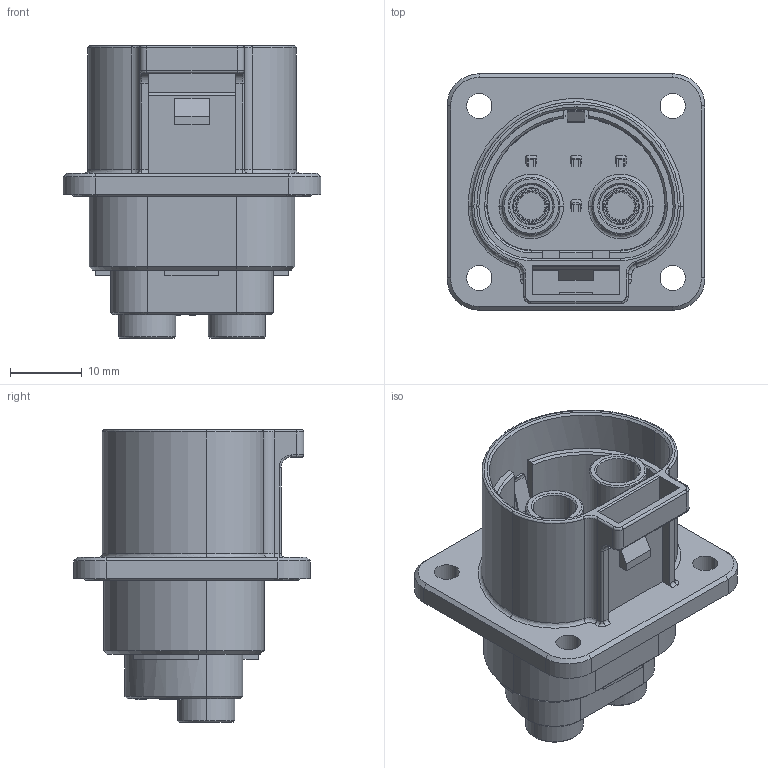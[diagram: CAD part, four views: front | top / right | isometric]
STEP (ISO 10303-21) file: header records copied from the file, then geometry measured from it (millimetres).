
FILE_DESCRIPTION (( 'STEP AP214' ), '1' );
FILE_NAME ('PL0824X-40.STEP', '2016-05-05T06:21:34', ( '' ), ( '' ), 'SwSTEP 2.0', 'SolidWorks 2014', '' );
FILE_SCHEMA (( 'AUTOMOTIVE_DESIGN' ));
Length unit declared in the file: millimetre
Products named in the file (1): PL0824X-40
Bounding box: 36 x 33 x 40.8 mm (x, y, z)
Volume: 12548.9 mm3; surface area: 11887.4 mm2
Topology: 1 solids, 1 shells, 784 faces, 2175 edges, 1408 vertices
Faces by surface type: plane 339, cylinder 288, bspline 106, cone 51
Entity records: 38015 total; most frequent: CARTESIAN_POINT 10392, ORIENTED_EDGE 4342, DIRECTION 3706, EDGE_CURVE 2171, VERTEX_POINT 1408, AXIS2_PLACEMENT_3D 1266, LINE 1174, VECTOR 1174
